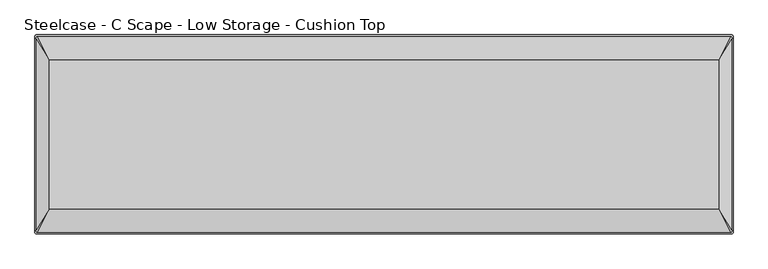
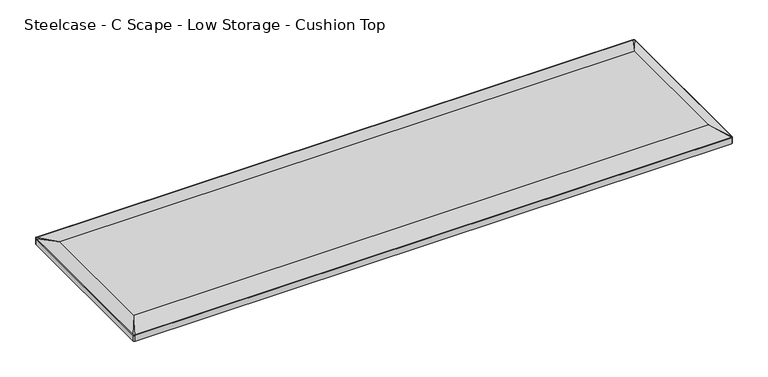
"""IFC4 building model written with IfcOpenShell, lengths in millimetres: furniture geometry, Steelcase - C Scape - Low Storage - Cushion Top : 12D x 42W."""

from ifc_helpers import new_model, si_unit, point, frame, frame_2d, origin, place, context, project, spatial, polyline, circle_curve, trimmed, segment, composite_curve, outline, extrude, source, transform, mapped, element, save
from ifc_brep_helpers import plane_surface, spline_surface, advanced_brep


def steelcase_c_scape_low_storage_cushion_top_453ddd4c(model_context):
    return source(origin(), model_context, "Body", "SolidModel", [
        extrude(outline(composite_curve([segment(trimmed(circle_curve(frame_2d((1064.26, 149.86)), 2.54), [point((1064.26, 152.4))], [point((1066.8, 149.86))], False, "CARTESIAN"), True, "CONTINUOUS"), segment(polyline([(1066.8, 149.86), (1066.8, -149.86)]), True, "CONTINUOUS"), segment(trimmed(circle_curve(frame_2d((1064.26, -149.86)), 2.54), [point((1066.8, -149.86))], [point((1064.26, -152.4))], False, "CARTESIAN"), True, "CONTINUOUS"), segment(polyline([(1064.26, -152.4), (2.54, -152.4)]), True, "CONTINUOUS"), segment(trimmed(circle_curve(frame_2d((2.54, -149.86)), 2.54), [point((2.54, -152.4))], [point((0.0, -149.86))], False, "CARTESIAN"), True, "CONTINUOUS"), segment(polyline([(0.0, -149.86), (0.0, 149.86)]), True, "CONTINUOUS"), segment(trimmed(circle_curve(frame_2d((2.54, 149.86)), 2.54), [point((0.0, 149.86))], [point((2.54, 152.4))], False, "CARTESIAN"), True, "CONTINUOUS"), segment(polyline([(2.54, 152.4), (1064.26, 152.4)]), True, "CONTINUOUS")], self_intersect=False)), frame((0.0, 0.0, 599.44), z_axis=(0.0, 0.0, 1.0), x_axis=(1.0, 0.0, 0.0)), (0.0, 0.0, 1.0), 10.9220174),
        advanced_brep(
        [(1064.26, 152.4, 610.3620174), (1066.8, 149.86, 610.3620174), (1066.8, -149.86, 610.3620174), (1064.26, -152.4, 610.3620174), (2.54, -152.4, 610.3620174), (0.0, -149.86, 610.3620174), (0.0, 149.86, 610.3620174), (2.54, 152.4, 610.3620174), (1044.702, 114.0206021, 618.4900097), (22.0725989, 114.0206021, 618.4900097), (22.0725989, -114.0206021, 618.4900097), (1044.702, -114.0206021, 618.4900097)],
        [
            (0, 1, circle_curve(frame((1064.26, 149.86, 610.3620174), z_axis=(0.0, 0.0, -1.0), x_axis=(1.0, 0.0, 0.0)), 2.54)),
            (1, 2),
            (2, 3, circle_curve(frame((1064.26, -149.86, 610.3620174), z_axis=(0.0, 0.0, -1.0), x_axis=(1.0, 0.0, 0.0)), 2.54)),
            (3, 4),
            (4, 5, circle_curve(frame((2.54, -149.86, 610.3620174), z_axis=(0.0, 0.0, -1.0), x_axis=(1.0, 0.0, 0.0)), 2.54)),
            (5, 6),
            (6, 7, circle_curve(frame((2.54, 149.86, 610.3620174), z_axis=(0.0, 0.0, -1.0), x_axis=(1.0, 0.0, 0.0)), 2.54)),
            (7, 0),
            (8, 9),
            (9, 10),
            (10, 11),
            (11, 8),
            (8, 0),
            (7, 9),
            (9, 6),
            (5, 10),
            (10, 4),
            (3, 11),
            (11, 2),
            (1, 8),
        ],
        [
            plane_surface(frame((533.4, 0.0, 610.3620174), z_axis=(0.0, 0.0, -1.0), x_axis=(-1.0, 0.0, 0.0))),
            plane_surface(frame((533.3872995, 0.0, 618.4900097), z_axis=(0.0, 0.0, 1.0), x_axis=(-1.0, 0.0, 0.0))),
            plane_surface(frame((533.3872995, 114.0206021, 618.4900097), z_axis=(0.0, 0.20718484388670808, 0.9783018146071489), x_axis=(1.0, 0.0, 0.0))),
            plane_surface(frame((22.0725989, 0.0, 618.4900097), z_axis=(-0.3455549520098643, 0.0, 0.9383985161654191), x_axis=(0.0, 1.0, 0.0))),
            plane_surface(frame((533.3872995, -114.0206021, 618.4900097), z_axis=(0.0, -0.20718484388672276, 0.9783018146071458), x_axis=(-1.0, 0.0, 0.0))),
            plane_surface(frame((1044.702, 0.0, 618.4900097), z_axis=(0.3452051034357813, 0.0, 0.9385272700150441), x_axis=(0.0, -1.0, 0.0))),
            spline_surface(2, 1, [[(1044.702, 114.0206021, 618.4900097), (1064.26, 152.4, 610.3620174)], [(1044.702, 114.0206021, 618.4900097), (1066.8, 152.40000000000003, 610.3620174)], [(1044.702, 114.0206021, 618.4900097), (1066.8, 149.86, 610.3620174)]], [3, 3], [2, 2], [0.0, 1.0], [0.0, 1.0], weights=[[1.0, 1.0], [0.7071067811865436, 0.7071067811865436], [1.0, 1.0]]),
            spline_surface(2, 1, [[(1044.702, -114.0206021, 618.4900097), (1066.8, -149.86, 610.3620174)], [(1044.702, -114.0206021, 618.4900097), (1066.8, -152.39999999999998, 610.3620174)], [(1044.702, -114.0206021, 618.4900097), (1064.26, -152.4, 610.3620174)]], [3, 3], [2, 2], [0.0, 1.0], [0.0, 1.0], weights=[[1.0, 1.0], [0.7071067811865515, 0.7071067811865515], [1.0, 1.0]]),
            spline_surface(2, 1, [[(22.0725989, -114.0206021, 618.4900097), (2.54, -152.4, 610.3620174)], [(22.0725989, -114.0206021, 618.4900097), (7.993605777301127e-15, -152.4, 610.3620174)], [(22.0725989, -114.0206021, 618.4900097), (0.0, -149.86, 610.3620174)]], [3, 3], [2, 2], [0.0, 1.0], [0.0, 1.0], weights=[[1.0, 1.0], [0.7071067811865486, 0.7071067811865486], [1.0, 1.0]]),
            spline_surface(2, 1, [[(22.0725989, 114.0206021, 618.4900097), (0.0, 149.86, 610.3620174)], [(22.0725989, 114.0206021, 618.4900097), (-8.43769498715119e-15, 152.4, 610.3620174)], [(22.0725989, 114.0206021, 618.4900097), (2.54, 152.4, 610.3620174)]], [3, 3], [2, 2], [0.0, 1.0], [0.0, 1.0], weights=[[1.0, 1.0], [0.7071067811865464, 0.7071067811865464], [1.0, 1.0]]),
        ],
        [
            (0, [[1, 2, 3, 4, 5, 6, 7, 8]]),
            (1, [[9, 10, 11, 12]]),
            (2, [[-9, 13, -8, 14]]),
            (3, [[-10, 15, -6, 16]]),
            (4, [[-11, 17, -4, 18]]),
            (5, [[-12, 19, -2, 20]]),
            (6, [[-1, -13, -20]]),
            (7, [[-3, -19, -18]]),
            (8, [[-5, -17, -16]]),
            (9, [[-7, -15, -14]]),
        ],
    ),
    ])


if __name__ == "__main__":
    model = new_model("IFC4")
    model_context = context("Model", 3, world=origin())
    ifc_project = project(units=[si_unit("LENGTHUNIT", "METRE", prefix="MILLI")], contexts=[model_context])
    site = spatial("IfcSite", under=ifc_project)
    building = spatial("IfcBuilding", under=site)
    placement = place(None, origin())
    steelcase_c_scape_low_storage_cushion_top_shape = steelcase_c_scape_low_storage_cushion_top_453ddd4c(model_context)
    element("IfcFurniture", 1, ObjectType="Steelcase - C Scape - Low Storage - Cushion Top : 12D x 42W", at=placement, inside=building, context=model_context, shape_type="MappedRepresentation", body=[
        mapped(steelcase_c_scape_low_storage_cushion_top_shape, transform((0.0, 0.0, 0.0), x_axis=(1.0, 0.0, 0.0), y_axis=(0.0, 1.0, 0.0), z_axis=(0.0, 0.0, 1.0))),
    ])
    save(model, "model.ifc")
